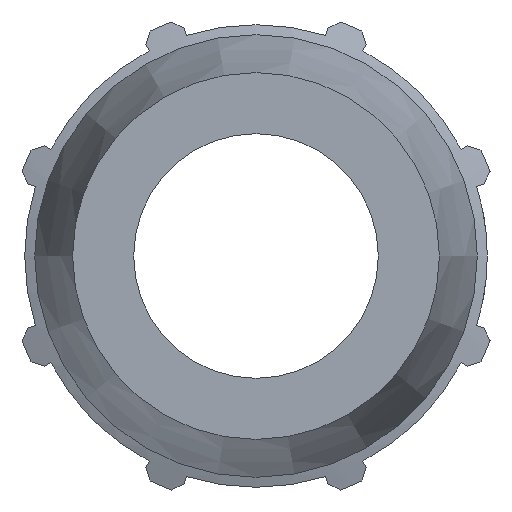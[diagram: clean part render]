
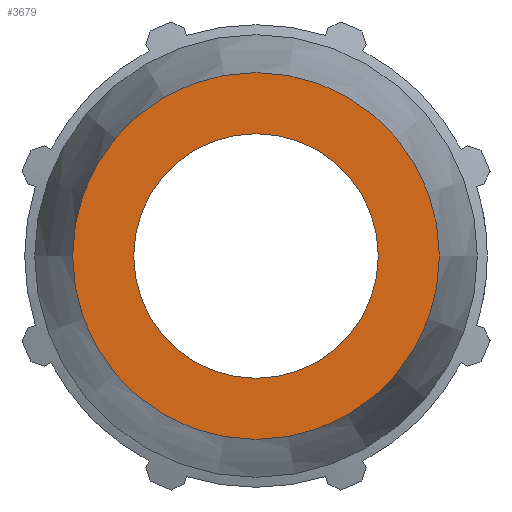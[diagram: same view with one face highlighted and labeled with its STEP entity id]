
A CAD part, left-side view. The second image highlights one B-rep face of the part: STEP entity #3679.
In plain terms, the highlighted planar face has unit normal (-1, 0, 0).
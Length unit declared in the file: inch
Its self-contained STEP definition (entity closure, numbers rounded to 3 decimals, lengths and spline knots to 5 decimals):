
#120=FACE_BOUND('',#521,.T.);
#176=PLANE('',#4005);
#315=FACE_OUTER_BOUND('',#520,.T.);
#520=EDGE_LOOP('',(#2900,#2901));
#521=EDGE_LOOP('',(#2902,#2903));
#755=CIRCLE('',#4003,0.78543);
#756=CIRCLE('',#4004,0.78543);
#757=CIRCLE('',#4006,0.52362);
#758=CIRCLE('',#4007,0.52362);
#1658=VERTEX_POINT('',#6042);
#1659=VERTEX_POINT('',#6043);
#1660=VERTEX_POINT('',#6048);
#1661=VERTEX_POINT('',#6049);
#2118=EDGE_CURVE('',#1658,#1659,#755,.T.);
#2120=EDGE_CURVE('',#1659,#1658,#756,.T.);
#2121=EDGE_CURVE('',#1660,#1661,#757,.T.);
#2122=EDGE_CURVE('',#1661,#1660,#758,.T.);
#2900=ORIENTED_EDGE('',*,*,#2118,.F.);
#2901=ORIENTED_EDGE('',*,*,#2120,.F.);
#2902=ORIENTED_EDGE('',*,*,#2121,.T.);
#2903=ORIENTED_EDGE('',*,*,#2122,.T.);
#3679=ADVANCED_FACE('',(#315,#120),#176,.F.);
#4003=AXIS2_PLACEMENT_3D('',#6044,#4720,#4721);
#4004=AXIS2_PLACEMENT_3D('',#6046,#4723,#4724);
#4005=AXIS2_PLACEMENT_3D('',#6047,#4725,#4726);
#4006=AXIS2_PLACEMENT_3D('',#6050,#4727,#4728);
#4007=AXIS2_PLACEMENT_3D('',#6051,#4729,#4730);
#4720=DIRECTION('center_axis',(1.,0.,0.));
#4721=DIRECTION('ref_axis',(0.,0.,-1.));
#4723=DIRECTION('center_axis',(1.,0.,0.));
#4724=DIRECTION('ref_axis',(0.,0.,-1.));
#4725=DIRECTION('center_axis',(1.,0.,0.));
#4726=DIRECTION('ref_axis',(0.,0.,-1.));
#4727=DIRECTION('center_axis',(1.,0.,0.));
#4728=DIRECTION('ref_axis',(0.,0.,-1.));
#4729=DIRECTION('center_axis',(1.,0.,0.));
#4730=DIRECTION('ref_axis',(0.,0.,-1.));
#6042=CARTESIAN_POINT('',(-2.675,0.78543,0.));
#6043=CARTESIAN_POINT('',(-2.675,-0.78543,0.));
#6044=CARTESIAN_POINT('Origin',(-2.675,0.,0.));
#6046=CARTESIAN_POINT('Origin',(-2.675,0.,0.));
#6047=CARTESIAN_POINT('Origin',(-2.675,0.52362,0.));
#6048=CARTESIAN_POINT('',(-2.675,0.52362,0.));
#6049=CARTESIAN_POINT('',(-2.675,-0.52362,0.));
#6050=CARTESIAN_POINT('Origin',(-2.675,0.,0.));
#6051=CARTESIAN_POINT('Origin',(-2.675,0.,0.));
